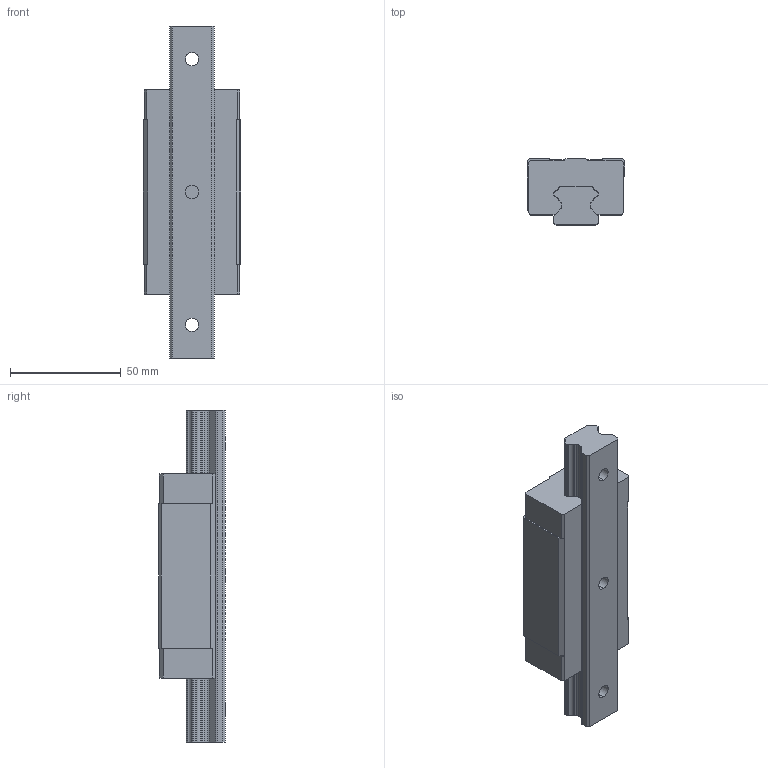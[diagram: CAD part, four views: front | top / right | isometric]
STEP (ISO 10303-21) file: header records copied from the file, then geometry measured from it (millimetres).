
FILE_DESCRIPTION (( 'STEP AP214' ), '1' );
FILE_NAME ('2.1024 Lineaarikelkka HGH20HA.STEP', '2025-09-19T06:28:20', ( '' ), ( '' ), 'SwSTEP 2.0', 'SolidWorks 2025', '' );
FILE_SCHEMA (( 'AUTOMOTIVE_DESIGN' ));
Length unit declared in the file: millimetre
Products named in the file (1): 2.1024 Lineaarikelkka HGH20HA
Bounding box: 44 x 30 x 150 mm (x, y, z)
Volume: 122636.9 mm3; surface area: 30504.2 mm2
Topology: 2 solids, 2 shells, 167 faces, 456 edges, 300 vertices
Faces by surface type: plane 101, cylinder 66
Entity records: 7171 total; most frequent: DIRECTION 928, CARTESIAN_POINT 924, ORIENTED_EDGE 912, EDGE_CURVE 456, VECTOR 320, LINE 320, AXIS2_PLACEMENT_3D 304, VERTEX_POINT 300
